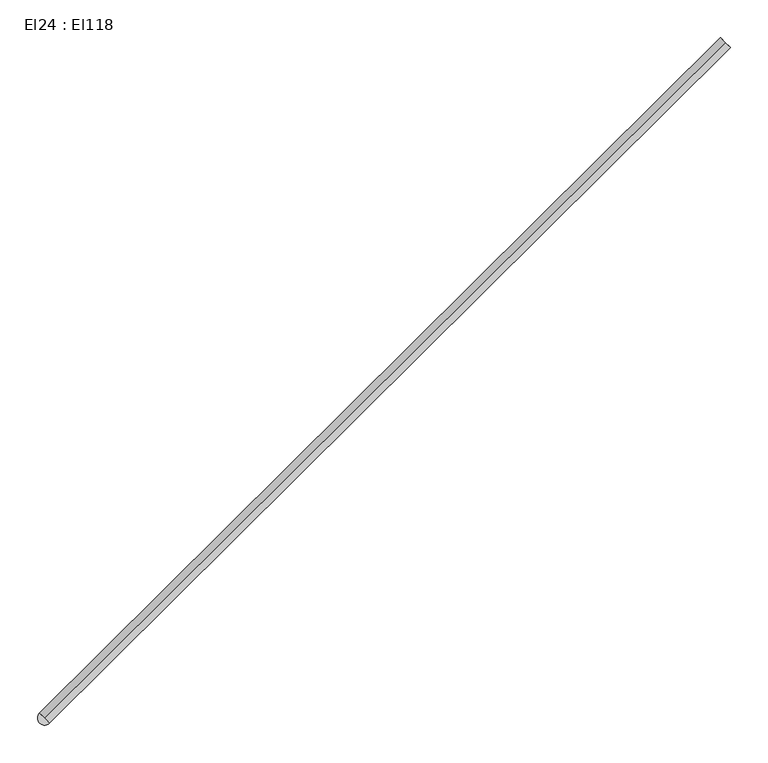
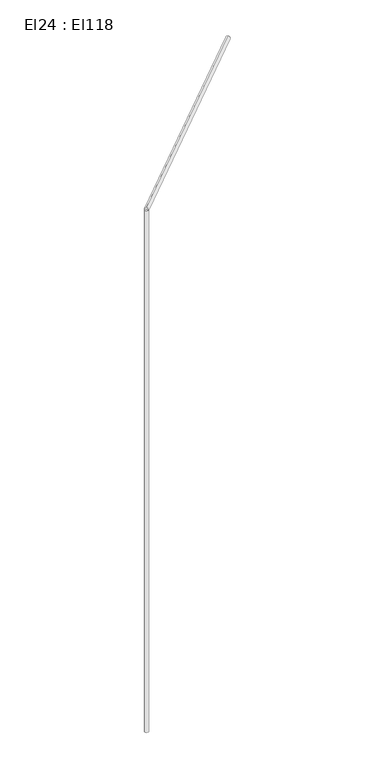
"""IFC4 building model written with IfcOpenShell, lengths in millimetres: cable carrier segment geometry, El24 : El118."""

from ifc_helpers import new_model, si_unit, point, frame, frame_2d, origin, place, context, project, spatial, circle_curve, trimmed, segment, composite_curve, outline, extrude, source, transform, mapped, element, save


def el24_el118_48040a78(model_context):
    return source(origin(), model_context, "Body", "SweptSolid", [
        extrude(outline(composite_curve([segment(trimmed(circle_curve(frame_2d((0.0, -9.5)), 9.5), [point((0.0, -19.0))], [point((0.0, 0.0))], False, "CARTESIAN"), True, "CONTINUOUS"), segment(trimmed(circle_curve(frame_2d((0.0, -9.5)), 9.5), [point((0.0, 0.0))], [point((0.0, -19.0))], False, "CARTESIAN"), True, "CONTINUOUS")], self_intersect=False)), frame((27794.4306511, 2210.9541745, 4459.5), z_axis=(0.7099321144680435, 0.7042701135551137, 0.0), x_axis=(-0.7042701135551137, 0.7099321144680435, 0.0)), (0.0, 0.0, 1.0), 1276.03),
        extrude(outline(composite_curve([segment(trimmed(circle_curve(frame_2d((27794.4306511, 2210.9541745)), 9.5), [point((27784.9306511, 2210.9541745))], [point((27803.9306511, 2210.9541745))], False, "CARTESIAN"), True, "CONTINUOUS"), segment(trimmed(circle_curve(frame_2d((27794.4306511, 2210.9541745)), 9.5), [point((27803.9306511, 2210.9541745))], [point((27784.9306511, 2210.9541745))], False, "CARTESIAN"), True, "CONTINUOUS")], self_intersect=False)), frame((0.0, 0.0, 1830.0), z_axis=(0.0, 0.0, 1.0), x_axis=(1.0, 0.0, 0.0)), (0.0, 0.0, 1.0), 2620.0),
    ])


if __name__ == "__main__":
    model = new_model("IFC4")
    model_context = context("Model", 3, world=origin())
    ifc_project = project(units=[si_unit("LENGTHUNIT", "METRE", prefix="MILLI")], contexts=[model_context])
    site = spatial("IfcSite", under=ifc_project)
    building = spatial("IfcBuilding", under=site)
    placement = place(None, origin())
    el24_el118_shape = el24_el118_48040a78(model_context)
    element("IfcCableCarrierSegment", 1, ObjectType="El24 : El118", at=placement, inside=building, context=model_context, shape_type="MappedRepresentation", body=[
        mapped(el24_el118_shape, transform((0.0, 0.0, 0.0), x_axis=(1.0, 0.0, 0.0), y_axis=(0.0, 1.0, 0.0), z_axis=(0.0, 0.0, 1.0))),
    ])
    save(model, "model.ifc")
